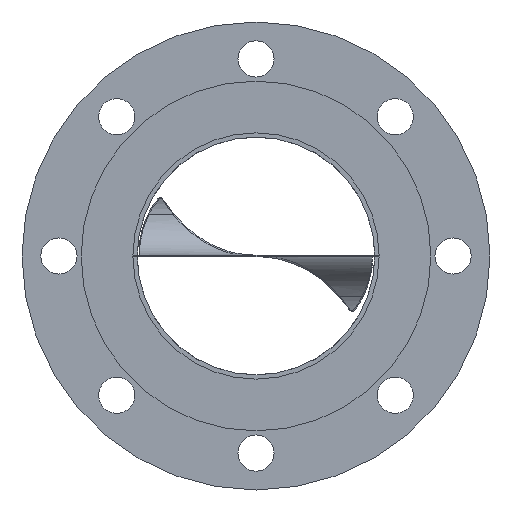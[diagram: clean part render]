
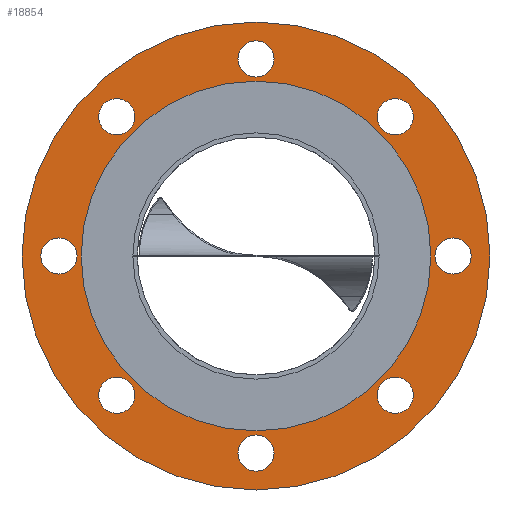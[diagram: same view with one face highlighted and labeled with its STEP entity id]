
A CAD part, left-side view. The second image highlights one B-rep face of the part: STEP entity #18854.
In plain terms, the highlighted planar face has unit normal (-1, 0, 0).
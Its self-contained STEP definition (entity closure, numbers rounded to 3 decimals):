
#567=FACE_BOUND('',#3827,.T.);
#568=FACE_BOUND('',#3828,.T.);
#569=FACE_BOUND('',#3829,.T.);
#570=FACE_BOUND('',#3830,.T.);
#571=FACE_BOUND('',#3831,.T.);
#572=FACE_BOUND('',#3832,.T.);
#573=FACE_BOUND('',#3833,.T.);
#574=FACE_BOUND('',#3834,.T.);
#575=FACE_BOUND('',#3835,.T.);
#1064=PLANE('',#20564);
#2657=FACE_OUTER_BOUND('',#3826,.T.);
#3826=EDGE_LOOP('',(#16697));
#3827=EDGE_LOOP('',(#16698));
#3828=EDGE_LOOP('',(#16699));
#3829=EDGE_LOOP('',(#16700));
#3830=EDGE_LOOP('',(#16701));
#3831=EDGE_LOOP('',(#16702));
#3832=EDGE_LOOP('',(#16703));
#3833=EDGE_LOOP('',(#16704));
#3834=EDGE_LOOP('',(#16705));
#3835=EDGE_LOOP('',(#16706));
#7270=CIRCLE('',#20535,95.);
#7272=CIRCLE('',#20538,11.);
#7274=CIRCLE('',#20541,11.);
#7276=CIRCLE('',#20544,11.);
#7278=CIRCLE('',#20547,11.);
#7280=CIRCLE('',#20550,11.);
#7282=CIRCLE('',#20553,11.);
#7284=CIRCLE('',#20556,11.);
#7286=CIRCLE('',#20559,11.);
#7287=CIRCLE('',#20561,142.5);
#8978=VERTEX_POINT('',#39130);
#8980=VERTEX_POINT('',#39136);
#8982=VERTEX_POINT('',#39142);
#8984=VERTEX_POINT('',#39148);
#8986=VERTEX_POINT('',#39154);
#8988=VERTEX_POINT('',#39160);
#8990=VERTEX_POINT('',#39166);
#8992=VERTEX_POINT('',#39172);
#8994=VERTEX_POINT('',#39178);
#8995=VERTEX_POINT('',#39182);
#11543=EDGE_CURVE('',#8978,#8978,#7270,.T.);
#11546=EDGE_CURVE('',#8980,#8980,#7272,.T.);
#11549=EDGE_CURVE('',#8982,#8982,#7274,.T.);
#11552=EDGE_CURVE('',#8984,#8984,#7276,.T.);
#11555=EDGE_CURVE('',#8986,#8986,#7278,.T.);
#11558=EDGE_CURVE('',#8988,#8988,#7280,.T.);
#11561=EDGE_CURVE('',#8990,#8990,#7282,.T.);
#11564=EDGE_CURVE('',#8992,#8992,#7284,.T.);
#11567=EDGE_CURVE('',#8994,#8994,#7286,.T.);
#11568=EDGE_CURVE('',#8995,#8995,#7287,.T.);
#16697=ORIENTED_EDGE('',*,*,#11568,.T.);
#16698=ORIENTED_EDGE('',*,*,#11543,.T.);
#16699=ORIENTED_EDGE('',*,*,#11546,.T.);
#16700=ORIENTED_EDGE('',*,*,#11549,.T.);
#16701=ORIENTED_EDGE('',*,*,#11552,.T.);
#16702=ORIENTED_EDGE('',*,*,#11555,.T.);
#16703=ORIENTED_EDGE('',*,*,#11558,.T.);
#16704=ORIENTED_EDGE('',*,*,#11561,.T.);
#16705=ORIENTED_EDGE('',*,*,#11564,.T.);
#16706=ORIENTED_EDGE('',*,*,#11567,.T.);
#18854=ADVANCED_FACE('',(#2657,#567,#568,#569,#570,#571,#572,#573,#574,
#575),#1064,.T.);
#20535=AXIS2_PLACEMENT_3D('',#39132,#25216,#25217);
#20538=AXIS2_PLACEMENT_3D('',#39138,#25223,#25224);
#20541=AXIS2_PLACEMENT_3D('',#39144,#25230,#25231);
#20544=AXIS2_PLACEMENT_3D('',#39150,#25237,#25238);
#20547=AXIS2_PLACEMENT_3D('',#39156,#25244,#25245);
#20550=AXIS2_PLACEMENT_3D('',#39162,#25251,#25252);
#20553=AXIS2_PLACEMENT_3D('',#39168,#25258,#25259);
#20556=AXIS2_PLACEMENT_3D('',#39174,#25265,#25266);
#20559=AXIS2_PLACEMENT_3D('',#39180,#25272,#25273);
#20561=AXIS2_PLACEMENT_3D('',#39183,#25276,#25277);
#20564=AXIS2_PLACEMENT_3D('',#39188,#25283,#25284);
#25216=DIRECTION('center_axis',(1.,0.,0.));
#25217=DIRECTION('ref_axis',(0.,0.,-1.));
#25223=DIRECTION('center_axis',(1.,0.,0.));
#25224=DIRECTION('ref_axis',(0.,0.707,-0.707));
#25230=DIRECTION('center_axis',(1.,0.,0.));
#25231=DIRECTION('ref_axis',(0.,1.,0.));
#25237=DIRECTION('center_axis',(1.,0.,0.));
#25238=DIRECTION('ref_axis',(0.,0.707,0.707));
#25244=DIRECTION('center_axis',(1.,0.,0.));
#25245=DIRECTION('ref_axis',(0.,0.,
1.));
#25251=DIRECTION('center_axis',(1.,0.,0.));
#25252=DIRECTION('ref_axis',(0.,-0.707,0.707));
#25258=DIRECTION('center_axis',(1.,0.,0.));
#25259=DIRECTION('ref_axis',(0.,-1.,0.));
#25265=DIRECTION('center_axis',(1.,0.,0.));
#25266=DIRECTION('ref_axis',(0.,-0.707,-0.707));
#25272=DIRECTION('center_axis',(1.,0.,0.));
#25273=DIRECTION('ref_axis',(0.,0.,-1.));
#25276=DIRECTION('center_axis',(-1.,0.,0.));
#25277=DIRECTION('ref_axis',(0.,0.,-1.));
#25283=DIRECTION('center_axis',(-1.,0.,0.));
#25284=DIRECTION('ref_axis',(0.,0.,1.));
#39130=CARTESIAN_POINT('',(-1050.,0.,95.));
#39132=CARTESIAN_POINT('Origin',(-1050.,0.,0.));
#39136=CARTESIAN_POINT('',(-1050.,77.075,92.631));
#39138=CARTESIAN_POINT('Origin',(-1050.,84.853,84.853));
#39142=CARTESIAN_POINT('',(-1050.,-11.,120.));
#39144=CARTESIAN_POINT('Origin',(-1050.,0.,120.));
#39148=CARTESIAN_POINT('',(-1050.,-92.631,77.075));
#39150=CARTESIAN_POINT('Origin',(-1050.,-84.853,84.853));
#39154=CARTESIAN_POINT('',(-1050.,-120.,-11.));
#39156=CARTESIAN_POINT('Origin',(-1050.,-120.,0.));
#39160=CARTESIAN_POINT('',(-1050.,-77.075,-92.631));
#39162=CARTESIAN_POINT('Origin',(-1050.,-84.853,-84.853));
#39166=CARTESIAN_POINT('',(-1050.,11.,-120.));
#39168=CARTESIAN_POINT('Origin',(-1050.,0.,-120.));
#39172=CARTESIAN_POINT('',(-1050.,92.631,-77.075));
#39174=CARTESIAN_POINT('Origin',(-1050.,84.853,-84.853));
#39178=CARTESIAN_POINT('',(-1050.,120.,11.));
#39180=CARTESIAN_POINT('Origin',(-1050.,120.,0.));
#39182=CARTESIAN_POINT('',(-1050.,0.,142.5));
#39183=CARTESIAN_POINT('Origin',(-1050.,0.,0.));
#39188=CARTESIAN_POINT('Origin',(-1050.,0.,0.));
